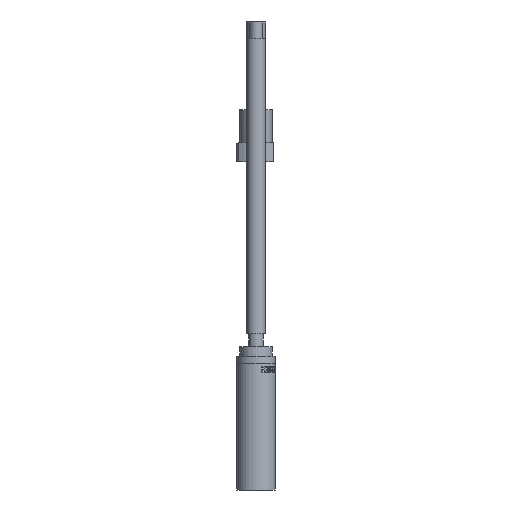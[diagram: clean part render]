
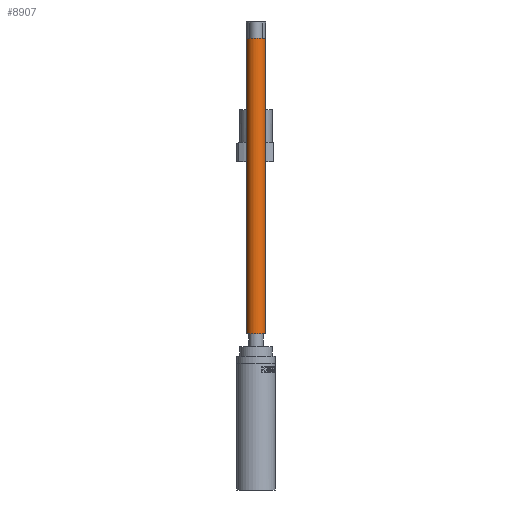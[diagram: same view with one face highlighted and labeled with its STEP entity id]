
A CAD part, left-side view. The second image highlights one B-rep face of the part: STEP entity #8907.
In plain terms, the highlighted cylindrical face has radius 1.5 mm (diameter 3 mm), a full revolution.
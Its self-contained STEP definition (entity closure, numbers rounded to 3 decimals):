
#8907=ADVANCED_FACE('',(#9721,#9722),#9131,.T.);
#9131=CYLINDRICAL_SURFACE('',#20699,1.5);
#9721=FACE_BOUND('',#11041,.T.);
#9722=FACE_BOUND('',#11042,.T.);
#11041=EDGE_LOOP('',(#15208));
#11042=EDGE_LOOP('',(#15209));
#15208=ORIENTED_EDGE('',*,*,#18949,.F.);
#15209=ORIENTED_EDGE('',*,*,#18950,.T.);
#16827=VERTEX_POINT('',#41230);
#16828=VERTEX_POINT('',#41232);
#18949=EDGE_CURVE('',#16827,#16827,#19472,.T.);
#18950=EDGE_CURVE('',#16828,#16828,#19473,.T.);
#19472=CIRCLE('',#20697,1.5);
#19473=CIRCLE('',#20698,1.5);
#20697=AXIS2_PLACEMENT_3D('',#41229,#23551,#23552);
#20698=AXIS2_PLACEMENT_3D('',#41231,#23553,#23554);
#20699=AXIS2_PLACEMENT_3D('',#41233,#23555,#23556);
#23551=DIRECTION('',(0.,0.,-1.));
#23552=DIRECTION('',(-1.,0.,0.));
#23553=DIRECTION('',(0.,0.,-1.));
#23554=DIRECTION('',(-1.,0.,0.));
#23555=DIRECTION('',(0.,0.,-1.));
#23556=DIRECTION('',(-1.,0.,0.));
#41229=CARTESIAN_POINT('',(-52.,0.,24.1));
#41230=CARTESIAN_POINT('',(-53.5,0.,24.1));
#41231=CARTESIAN_POINT('',(-52.,0.,69.6));
#41232=CARTESIAN_POINT('',(-53.5,0.,69.6));
#41233=CARTESIAN_POINT('',(-52.,0.,20.6));
